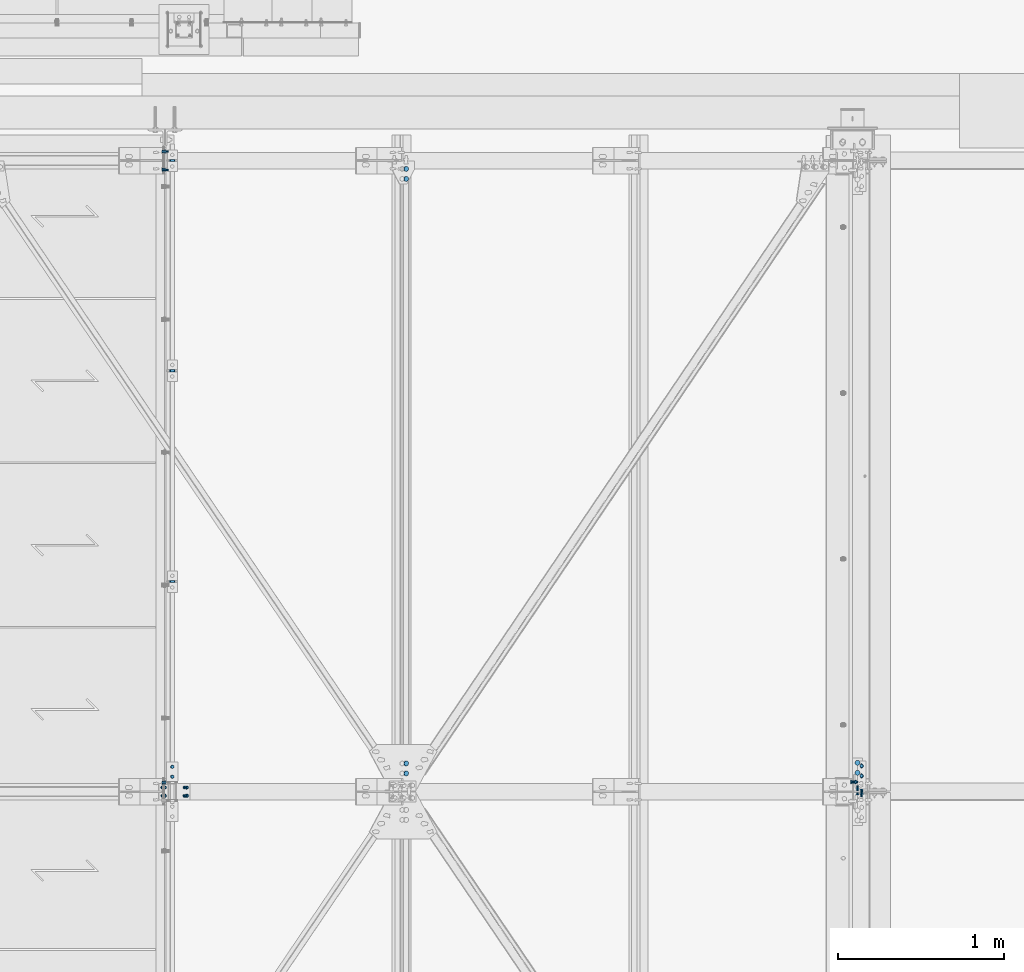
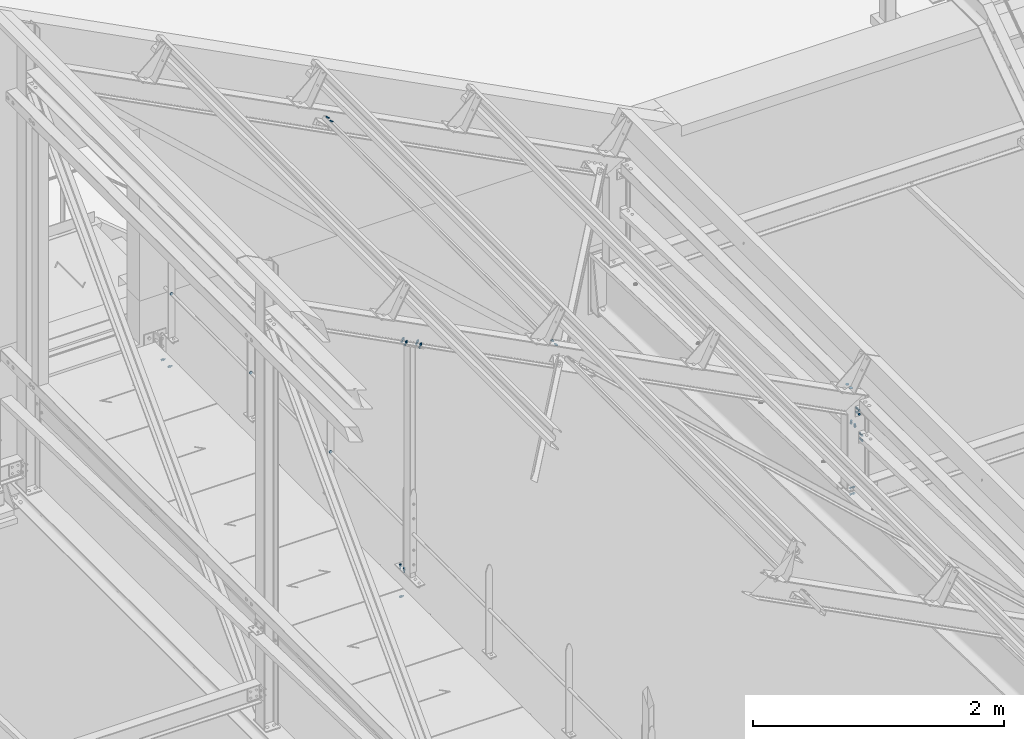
# One storey, part 294 of 362: 16 mechanical fasteners.
"""IFC2X3 building model written with IfcOpenShell, lengths in millimetres."""

from ifc_helpers import new_model, si_unit, frame, frame_2d, origin_with_axes, origin_2d_with_axis, place, context, subcontext, project, spatial, polyline, circle_curve, parameter, trimmed, segment, composite_curve, circle, outline, extrude, source, transform, mapped, material, type_object, element, save


model = new_model("IFC2X3")

# Units and contexts
model_context = context("Model", 3, precision=1e-05, world=origin_with_axes())
body_context = subcontext(model_context, "Body", "Model", "MODEL_VIEW")
ifc_project = project(units=[si_unit("LENGTHUNIT", "METRE", prefix="MILLI"), si_unit("AREAUNIT", "SQUARE_METRE"), si_unit("VOLUMEUNIT", "CUBIC_METRE"), si_unit("MASSUNIT", "GRAM", prefix="KILO"), si_unit("TIMEUNIT", "SECOND"), si_unit("PLANEANGLEUNIT", "RADIAN"), si_unit("SOLIDANGLEUNIT", "STERADIAN"), si_unit("THERMODYNAMICTEMPERATUREUNIT", "DEGREE_CELSIUS"), si_unit("LUMINOUSINTENSITYUNIT", "LUMEN")], contexts=[model_context])

# Site, building, storey
site_placement = place(None, origin_with_axes())
site = spatial("IfcSite", under=ifc_project, at=site_placement, Name="Undefined", CompositionType="ELEMENT")
building_placement = place(site_placement, origin_with_axes())
building = spatial("IfcBuilding", under=site, at=building_placement, Name="Undefined", CompositionType="ELEMENT")
storey_placement = place(building_placement, origin_with_axes())
storey = spatial("IfcBuildingStorey", under=building, at=storey_placement, Name="Undefined", CompositionType="ELEMENT", Elevation=0.0)

# Mechanical fasteners
ifc_material_1 = material(Name="6.8")
mechanical_fastener_type = type_object("IfcMechanicalFastenerType", Name="Bolt assembly")
shared_shape_1 = source(origin_with_axes(), body_context, "Body", "SweptSolid", [
    extrude(circle(Radius=15.0, at=origin_2d_with_axis()), frame((0.0, 0.0, 0.0), z_axis=(0.0, 1.0, 0.0), x_axis=(1.0, 0.0, 0.0)), (0.0, 0.0, 1.0), 4.1),
])
for number, where, z_axis, x_axis, name in (
    (1, (26193.4056080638, 11509.9990825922, 9926.43170120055), (-0.887870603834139, 2.26363914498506e-05, 0.460093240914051), (2.00950000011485e-05, 0.999999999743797, -1.04209999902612e-05), "Bolt assembly"),
    (2, (26193.4080120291, 15150.0001326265, 9926.43045706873), (0.887870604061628, 0.0, -0.460093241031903), (0.0, -1.0, 0.0), "Bolt assembly"),
    (3, (28910.0, 11573.5, 8550.0), (1.0, 0.0, 0.0), (0.0, -1.0, 0.0), "Bolt assembly"),
):
    element("IfcMechanicalFastener", number, at=place(storey_placement, frame(where, z_axis=z_axis, x_axis=x_axis)), inside=storey, type_object=mechanical_fastener_type, material=ifc_material_1, Name=name, NominalDiameter=30.0, NominalLength=4.0, context=body_context, shape_type="MappedRepresentation", body=[
        mapped(shared_shape_1, transform((0.0, 0.0, 0.0))),
        mapped(shared_shape_1, transform((60.0, 0.0, 0.0))),
    ])
ifc_material_2 = material(Name="8.8-SB-ZINGUE")
shared_shape_2 = source(origin_with_axes(), body_context, "Body", "SweptSolid", [
    extrude(circle(Radius=7.0, at=origin_2d_with_axis()), frame((0.0, -10.0000010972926, 0.0), z_axis=(0.0, 1.0, 0.0), x_axis=(1.0, 0.0, 0.0)), (0.0, 0.0, 1.0), 10.1),
    extrude(outline(polyline([(10.39230484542, 0.0), (5.19615242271, 9.00000000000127), (-5.19615242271, 9.00000000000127), (-10.39230484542, 0.0), (-5.19615242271, -9.00000000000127), (5.19615242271, -9.00000000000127), (10.39230484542, 0.0)])), frame((0.0, -17.92, 0.0), z_axis=(0.0, 1.0, 0.0), x_axis=(1.0, 0.0, 0.0)), (0.0, 0.0, 1.0), 7.92),
    extrude(circle(Radius=6.0, at=origin_2d_with_axis()), frame((0.0, -10.0000010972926, 0.0), z_axis=(0.0, 1.0, 0.0), x_axis=(1.0, 0.0, 0.0)), (0.0, 0.0, 1.0), 40.0),
    extrude(outline(polyline([(11.5008173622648, 0.0), (5.7504086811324, 9.96000000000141), (-5.7504086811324, 9.96000000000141), (-11.5008173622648, 0.0), (-5.7504086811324, -9.96000000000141), (5.7504086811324, -9.96000000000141), (11.5008173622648, 0.0)])), frame((0.0, 0.0, 0.0), z_axis=(0.0, 1.0, 0.0), x_axis=(1.0, 0.0, 0.0)), (0.0, 0.0, 1.0), 7.92),
])
mechanical_fastener_1_placement = place(storey_placement, frame((24783.9916006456, 11550.0001062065, 8239.99999240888), z_axis=(1.0, 0.0, 0.0), x_axis=(0.0, -1.0, 0.0)))
element("IfcMechanicalFastener", 4, at=mechanical_fastener_1_placement, inside=storey, type_object=mechanical_fastener_type, material=ifc_material_2, Name="Bolt assembly", NominalDiameter=12.0, NominalLength=40.0, context=body_context, shape_type="MappedRepresentation", body=[
    mapped(shared_shape_2, transform((0.0, 0.0, 0.0))),
    mapped(shared_shape_2, transform((60.0, 0.0, 0.0))),
])
shared_shape_3 = source(origin_with_axes(), body_context, "Body", "SweptSolid", [
    extrude(circle(Radius=14.0, at=origin_2d_with_axis()), frame((0.0, -5.00000000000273, 0.0), z_axis=(0.0, 1.0, 0.0), x_axis=(1.0, 0.0, 0.0)), (0.0, 0.0, 1.0), 10.1),
])
for number, where, z_axis, x_axis, name in (
    (5, (24783.9916088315, 15200.000000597, 8673.79999656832), (0.0, 0.0, 1.0), (-1.0, 0.0, 0.0), "Bolt assembly"),
    (6, (24783.9916069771, 12665.0034401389, 8673.79999843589), (0.0, 0.0, 1.0), (-1.0, 0.0, 0.0), "Bolt assembly"),
    (7, (24783.9916078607, 13935.0034401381, 8673.79999752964), (0.0, 0.0, 1.0), (-1.0, 0.0, 0.0), "Bolt assembly"),
):
    element("IfcMechanicalFastener", number, at=place(storey_placement, frame(where, z_axis=z_axis, x_axis=x_axis)), inside=storey, type_object=mechanical_fastener_type, material=ifc_material_1, Name=name, NominalDiameter=27.0, NominalLength=10.0, context=body_context, shape_type="MappedRepresentation", body=[
        mapped(shared_shape_3, transform((0.0, 0.0, 0.0))),
    ])
shared_shape_4 = source(origin_with_axes(), body_context, "Body", "SweptSolid", [
    extrude(circle(Radius=7.0, at=origin_2d_with_axis()), frame((0.0, -0.100011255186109, 0.0), z_axis=(0.0, 1.0, 0.0), x_axis=(1.0, 0.0, 0.0)), (0.0, 0.0, 1.0), 8.6),
    extrude(circle(Radius=7.0, at=origin_2d_with_axis()), frame((0.0, -9.9, 0.0), z_axis=(0.0, 1.0, 0.0), x_axis=(1.0, 0.0, 0.0)), (0.0, 0.0, 1.0), 10.0),
    extrude(outline(polyline([(10.39230484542, 0.0), (5.19615242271, 9.00000000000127), (-5.19615242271, 9.00000000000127), (-10.39230484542, 0.0), (-5.19615242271, -9.00000000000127), (5.19615242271, -9.00000000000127), (10.39230484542, 0.0)])), frame((0.0, -17.92, 0.0), z_axis=(0.0, 1.0, 0.0), x_axis=(1.0, 0.0, 0.0)), (0.0, 0.0, 1.0), 7.92),
    extrude(circle(Radius=6.0, at=origin_2d_with_axis()), frame((0.0, -10.0000010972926, 0.0), z_axis=(0.0, 1.0, 0.0), x_axis=(1.0, 0.0, 0.0)), (0.0, 0.0, 1.0), 40.0),
    extrude(circle(Radius=10.8, at=origin_2d_with_axis()), frame((0.0, 8.49999994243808, 0.0), z_axis=(0.0, 1.0, 0.0), x_axis=(1.0, 0.0, 0.0)), (0.0, 0.0, 1.0), 3.96),
    extrude(outline(polyline([(11.5008173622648, 0.0), (5.7504086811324, 9.96000000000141), (-5.7504086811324, 9.96000000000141), (-11.5008173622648, 0.0), (-5.7504086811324, -9.96000000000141), (5.7504086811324, -9.96000000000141), (11.5008173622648, 0.0)])), frame((0.0, 12.4599999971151, 0.0), z_axis=(0.0, 1.0, 0.0), x_axis=(1.0, 0.0, 0.0)), (0.0, 0.0, 1.0), 7.92),
])
for number, where, z_axis, x_axis, name in (
    (8, (24863.8999550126, 11400.0000000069, 10457.6989417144), (0.0, 1.0, 0.0), (-0.887870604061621, -1.29999898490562e-08, 0.460093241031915), "Bolt assembly"),
    (9, (24730.7193644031, 11400.0000000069, 10526.7129278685), (0.0, -1.0, 0.0), (0.887870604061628, 0.0, -0.460093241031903), "Bolt assembly"),
):
    element("IfcMechanicalFastener", number, at=place(storey_placement, frame(where, z_axis=z_axis, x_axis=x_axis)), inside=storey, type_object=mechanical_fastener_type, material=ifc_material_2, Name=name, NominalDiameter=12.0, NominalLength=40.0, context=body_context, shape_type="MappedRepresentation", body=[
        mapped(shared_shape_4, transform((0.0, 0.0, -25.0))),
        mapped(shared_shape_4, transform((0.0, 0.0, 25.0))),
    ])
shared_shape_5 = source(origin_with_axes(), body_context, "Body", "SweptSolid", [
    extrude(circle(Radius=7.0, at=origin_2d_with_axis()), frame((0.0, -6.5, 0.0), z_axis=(0.0, 1.0, 0.0), x_axis=(1.0, 0.0, 0.0)), (0.0, 0.0, 1.0), 6.1),
    extrude(outline(polyline([(10.39230484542, 0.0), (5.19615242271, 9.00000000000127), (-5.19615242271, 9.00000000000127), (-10.39230484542, 0.0), (-5.19615242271, -9.00000000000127), (5.19615242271, -9.00000000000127), (10.39230484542, 0.0)])), frame((0.0, -14.42, 0.0), z_axis=(0.0, 1.0, 0.0), x_axis=(1.0, 0.0, 0.0)), (0.0, 0.0, 1.0), 7.92),
    extrude(circle(Radius=6.0, at=origin_2d_with_axis()), frame((0.0, -6.5, 0.0), z_axis=(0.0, 1.0, 0.0), x_axis=(1.0, 0.0, 0.0)), (0.0, 0.0, 1.0), 30.0),
    extrude(outline(polyline([(11.5008173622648, 0.0), (5.7504086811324, 9.96000000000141), (-5.7504086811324, 9.96000000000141), (-11.5008173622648, 0.0), (-5.7504086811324, -9.96000000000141), (5.7504086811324, -9.96000000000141), (11.5008173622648, 0.0)])), frame((0.0, -0.5, 0.0), z_axis=(0.0, 1.0, 0.0), x_axis=(1.0, 0.0, 0.0)), (0.0, 0.0, 1.0), 7.92),
])
for number, where, z_axis, x_axis, name in (
    (10, (24736.4916006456, 11454.9999906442, 8015.00000000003), (0.0, 0.0, 1.0), (0.0, -1.0, 0.0), "Bolt assembly"),
    (11, (24736.4916006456, 15254.9999906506, 8014.99999999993), (0.0, 0.0, 1.0), (0.0, -1.0, 0.0), "Bolt assembly"),
    (12, (24736.4916006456, 15144.9999999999, 8014.99999999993), (0.0, 0.0, -1.0), (0.0, 1.0, 0.0), "Bolt assembly"),
):
    element("IfcMechanicalFastener", number, at=place(storey_placement, frame(where, z_axis=z_axis, x_axis=x_axis)), inside=storey, type_object=mechanical_fastener_type, material=ifc_material_2, Name=name, NominalDiameter=12.0, NominalLength=30.0, context=body_context, shape_type="MappedRepresentation", body=[
        mapped(shared_shape_5, transform((0.0, 0.0, 0.0))),
    ])
shared_shape_6 = source(origin_with_axes(), body_context, "Body", "SweptSolid", [
    extrude(circle(Radius=7.0, at=origin_2d_with_axis()), frame((0.0, -2.7999999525, 0.0), z_axis=(0.0, 1.0, 0.0), x_axis=(1.0, 0.0, 0.0)), (0.0, 0.0, 1.0), 5.6),
    extrude(circle(Radius=7.0, at=origin_2d_with_axis()), frame((0.0, -9.40000000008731, 0.0), z_axis=(0.0, 1.0, 0.0), x_axis=(1.0, 0.0, 0.0)), (0.0, 0.0, 1.0), 6.0),
    extrude(circle(Radius=7.0, at=origin_2d_with_axis()), frame((0.0, 3.40000111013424, 0.0), z_axis=(0.0, 1.0, 0.0), x_axis=(1.0, 0.0, 0.0)), (0.0, 0.0, 1.0), 6.1),
    extrude(outline(polyline([(10.39230484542, 0.0), (5.19615242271, 9.00000000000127), (-5.19615242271, 9.00000000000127), (-10.39230484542, 0.0), (-5.19615242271, -9.00000000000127), (5.19615242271, -9.00000000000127), (10.39230484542, 0.0)])), frame((0.0, -17.4200000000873, 0.0), z_axis=(0.0, 1.0, 0.0), x_axis=(1.0, 0.0, 0.0)), (0.0, 0.0, 1.0), 7.92),
    extrude(circle(Radius=6.0, at=origin_2d_with_axis()), frame((0.0, -9.50000000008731, 0.0), z_axis=(0.0, 1.0, 0.0), x_axis=(1.0, 0.0, 0.0)), (0.0, 0.0, 1.0), 40.0),
    extrude(outline(polyline([(11.5008173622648, 0.0), (5.7504086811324, 9.96000000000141), (-5.7504086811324, 9.96000000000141), (-11.5008173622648, 0.0), (-5.7504086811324, -9.96000000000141), (5.7504086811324, -9.96000000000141), (11.5008173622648, 0.0)])), frame((0.0, 9.50000815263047, 0.0), z_axis=(0.0, 1.0, 0.0), x_axis=(1.0, 0.0, 0.0)), (0.0, 0.0, 1.0), 7.92),
])
mechanical_fastener_2_placement = place(storey_placement, frame((28935.0000000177, 11400.0, 8107.99910819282), z_axis=(1.0, 0.0, 0.0), x_axis=(0.0, 0.0, 1.0)))
element("IfcMechanicalFastener", 13, at=mechanical_fastener_2_placement, inside=storey, type_object=mechanical_fastener_type, material=ifc_material_2, Name="Bolt assembly", NominalDiameter=12.0, NominalLength=40.0, context=body_context, shape_type="MappedRepresentation", body=[
    mapped(shared_shape_6, transform((0.0, 0.0, 0.0))),
    mapped(shared_shape_6, transform((49.9999999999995, 0.0, -3.63797880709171e-12))),
])
shared_shape_7 = source(origin_with_axes(), body_context, "Body", "SweptSolid", [
    extrude(circle(Radius=7.0, at=origin_2d_with_axis()), frame((0.0, -3.90012822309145, 0.0), z_axis=(0.0, 1.0, 0.0), x_axis=(1.0, 0.0, 0.0)), (0.0, 0.0, 1.0), 4.0),
    extrude(outline(composite_curve([segment(polyline([(-7.0, 7.0), (7.0, 7.0)]), True, "CONTINUOUS"), segment(trimmed(circle_curve(frame_2d((7.0, 0.0), x_axis=(0.0, 1.0)), 7.0), [parameter(0.0)], [parameter(3.14159265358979)], False, "PARAMETER"), True, "CONTINUOUS"), segment(polyline([(7.0, -7.0), (-7.0, -7.0)]), True, "CONTINUOUS"), segment(trimmed(circle_curve(frame_2d((-7.0, 0.0), x_axis=(0.0, -1.0)), 7.0), [parameter(0.0)], [parameter(3.14159265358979)], False, "PARAMETER"), True, "DISCONTINUOUS")], self_intersect=False)), frame((0.0, -0.100011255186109, 0.0), z_axis=(0.0, 1.0, 0.0), x_axis=(1.0, 0.0, 0.0)), (0.0, 0.0, 1.0), 6.1),
    extrude(outline(polyline([(10.39230484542, 0.0), (5.19615242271, 9.00000000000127), (-5.19615242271, 9.00000000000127), (-10.39230484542, 0.0), (-5.19615242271, -9.00000000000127), (5.19615242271, -9.00000000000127), (10.39230484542, 0.0)])), frame((0.0, -11.9201282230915, 0.0), z_axis=(0.0, 1.0, 0.0), x_axis=(1.0, 0.0, 0.0)), (0.0, 0.0, 1.0), 7.92),
    extrude(circle(Radius=6.0, at=origin_2d_with_axis()), frame((0.0, -4.00012822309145, 0.0), z_axis=(0.0, 1.0, 0.0), x_axis=(1.0, 0.0, 0.0)), (0.0, 0.0, 1.0), 30.0),
    extrude(circle(Radius=10.8, at=origin_2d_with_axis()), frame((0.0, 6.0, 0.0), z_axis=(0.0, 1.0, 0.0), x_axis=(1.0, 0.0, 0.0)), (0.0, 0.0, 1.0), 3.96),
    extrude(outline(polyline([(11.5008173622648, 0.0), (5.7504086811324, 9.96000000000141), (-5.7504086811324, 9.96000000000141), (-11.5008173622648, 0.0), (-5.7504086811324, -9.96000000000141), (5.7504086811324, -9.96000000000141), (11.5008173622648, 0.0)])), frame((0.0, 9.9600084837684, 0.0), z_axis=(0.0, 1.0, 0.0), x_axis=(1.0, 0.0, 0.0)), (0.0, 0.0, 1.0), 7.92),
])
mechanical_fastener_3_placement = place(storey_placement, frame((28935.0, 11554.9555719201, 8188.12886622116), z_axis=(1.0, 0.0, 0.0), x_axis=(0.0, -0.999506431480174, 0.0314148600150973)))
element("IfcMechanicalFastener", 14, at=mechanical_fastener_3_placement, inside=storey, type_object=mechanical_fastener_type, material=ifc_material_2, Name="Bolt assembly", NominalDiameter=12.0, NominalLength=30.0, context=body_context, shape_type="MappedRepresentation", body=[
    mapped(shared_shape_7, transform((0.0, 0.0, 0.0))),
    mapped(shared_shape_7, transform((60.0, 0.0, 0.0))),
])
shared_shape_8 = source(origin_with_axes(), body_context, "Body", "SweptSolid", [
    extrude(circle(Radius=7.0, at=origin_2d_with_axis()), frame((0.0, -2.80010483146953, 0.0), z_axis=(0.0, 1.0, 0.0), x_axis=(1.0, 0.0, 0.0)), (0.0, 0.0, 1.0), 5.6),
    extrude(circle(Radius=7.0, at=origin_2d_with_axis()), frame((0.0, 3.3998951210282, 0.0), z_axis=(0.0, 1.0, 0.0), x_axis=(1.0, 0.0, 0.0)), (0.0, 0.0, 1.0), 10.1),
    extrude(circle(Radius=7.0, at=origin_2d_with_axis()), frame((0.0, -13.4001048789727, 0.0), z_axis=(0.0, 1.0, 0.0), x_axis=(1.0, 0.0, 0.0)), (0.0, 0.0, 1.0), 10.0),
    extrude(outline(polyline([(10.39230484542, 0.0), (5.19615242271, 9.00000000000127), (-5.19615242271, 9.00000000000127), (-10.39230484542, 0.0), (-5.19615242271, -9.00000000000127), (5.19615242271, -9.00000000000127), (10.39230484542, 0.0)])), frame((0.0, -21.4201048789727, 0.0), z_axis=(0.0, 1.0, 0.0), x_axis=(1.0, 0.0, 0.0)), (0.0, 0.0, 1.0), 7.92),
    extrude(circle(Radius=6.0, at=origin_2d_with_axis()), frame((0.0, -13.5000574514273, 0.0), z_axis=(0.0, 1.0, 0.0), x_axis=(1.0, 0.0, 0.0)), (0.0, 0.0, 1.0), 50.0),
    extrude(outline(polyline([(11.5008173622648, 0.0), (5.7504086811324, 9.96000000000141), (-5.7504086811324, 9.96000000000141), (-11.5008173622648, 0.0), (-5.7504086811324, -9.96000000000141), (5.7504086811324, -9.96000000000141), (11.5008173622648, 0.0)])), frame((0.0, 13.4998951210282, 0.0), z_axis=(0.0, 1.0, 0.0), x_axis=(1.0, 0.0, 0.0)), (0.0, 0.0, 1.0), 7.92),
])
mechanical_fastener_4_placement = place(storey_placement, frame((28910.0, 11400.000104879, 8370.0), z_axis=(-1.0, 0.0, 0.0), x_axis=(0.0, 0.0, 1.0)))
element("IfcMechanicalFastener", 15, at=mechanical_fastener_4_placement, inside=storey, type_object=mechanical_fastener_type, material=ifc_material_2, Name="Bolt assembly", NominalDiameter=12.0, NominalLength=50.0, context=body_context, shape_type="MappedRepresentation", body=[
    mapped(shared_shape_8, transform((0.0, 0.0, 0.0))),
    mapped(shared_shape_8, transform((40.0, 0.0, 0.0))),
])
shared_shape_9 = source(origin_with_axes(), body_context, "Body", "SweptSolid", [
    extrude(circle(Radius=7.0, at=origin_2d_with_axis()), frame((0.0, -5.45000018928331, 0.0), z_axis=(0.0, 1.0, 0.0), x_axis=(1.0, 0.0, 0.0)), (0.0, 0.0, 1.0), 11.1),
    extrude(circle(Radius=7.0, at=origin_2d_with_axis()), frame((0.0, 5.90002706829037, 0.0), z_axis=(0.0, 1.0, 0.0), x_axis=(1.0, 0.0, 0.0)), (0.0, 0.0, 1.0), 10.1),
    extrude(outline(polyline([(10.39230484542, 0.0), (5.19615242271, 9.00000000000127), (-5.19615242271, 9.00000000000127), (-10.39230484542, 0.0), (-5.19615242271, -9.00000000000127), (5.19615242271, -9.00000000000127), (10.39230484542, 0.0)])), frame((0.0, -13.4700001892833, 0.0), z_axis=(0.0, 1.0, 0.0), x_axis=(1.0, 0.0, 0.0)), (0.0, 0.0, 1.0), 7.92),
    extrude(circle(Radius=6.0, at=origin_2d_with_axis()), frame((0.0, -5.55000018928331, 0.0), z_axis=(0.0, 1.0, 0.0), x_axis=(1.0, 0.0, 0.0)), (0.0, 0.0, 1.0), 40.0),
    extrude(outline(polyline([(11.5008173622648, 0.0), (5.7504086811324, 9.96000000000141), (-5.7504086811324, 9.96000000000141), (-11.5008173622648, 0.0), (-5.7504086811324, -9.96000000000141), (5.7504086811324, -9.96000000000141), (11.5008173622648, 0.0)])), frame((0.0, 15.9999999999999, 0.0), z_axis=(0.0, 1.0, 0.0), x_axis=(1.0, 0.0, 0.0)), (0.0, 0.0, 1.0), 7.92),
])
mechanical_fastener_5_placement = place(storey_placement, frame((28880.0, 11457.9718116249, 7589.86978274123), z_axis=(7.58071938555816e-11, 0.0314107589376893, 0.999506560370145), x_axis=(0.0, -0.999506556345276, 0.031410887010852)))
element("IfcMechanicalFastener", 16, at=mechanical_fastener_5_placement, inside=storey, type_object=mechanical_fastener_type, material=ifc_material_2, Name="Bolt assembly", NominalDiameter=12.0, NominalLength=40.0, context=body_context, shape_type="MappedRepresentation", body=[
    mapped(shared_shape_9, transform((0.0, 0.0, -30.0))),
    mapped(shared_shape_9, transform((0.0, 0.0, 30.0))),
])

save(model, "model.ifc")
